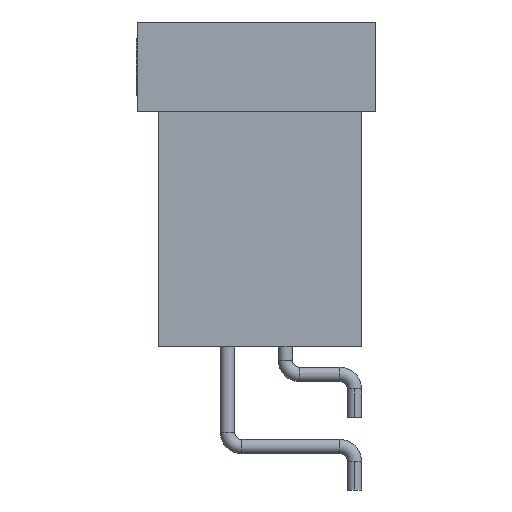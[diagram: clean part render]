
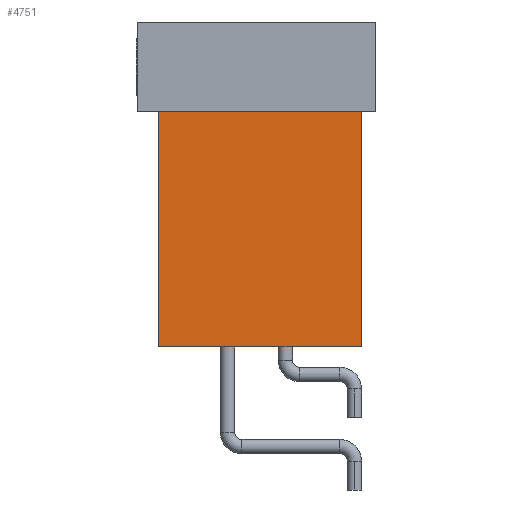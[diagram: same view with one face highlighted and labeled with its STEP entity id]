
A CAD part, left-side view. The second image highlights one B-rep face of the part: STEP entity #4751.
In plain terms, the highlighted planar face has unit normal (-1, 0, 0).
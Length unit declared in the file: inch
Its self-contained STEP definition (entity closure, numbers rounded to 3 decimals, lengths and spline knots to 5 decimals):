
#1491 = DIRECTION ( 'NONE',  ( 0., -1., 0. ) ) ;
#1956 = AXIS2_PLACEMENT_3D ( 'NONE', #17750, #22944, #7614 ) ;
#3034 = EDGE_LOOP ( 'NONE', ( #27203, #5277, #25218, #3708 ) ) ;
#3194 = VECTOR ( 'NONE', #1491, 39.37008 ) ;
#3708 = ORIENTED_EDGE ( 'NONE', *, *, #4571, .T. ) ;
#4571 = EDGE_CURVE ( 'NONE', #23767, #23528, #5003, .T. ) ;
#4751 = ADVANCED_FACE ( 'NONE', ( #27385 ), #20338, .T. ) ;
#5003 = LINE ( 'NONE', #21237, #16988 ) ;
#5277 = ORIENTED_EDGE ( 'NONE', *, *, #9298, .F. ) ;
#5829 = DIRECTION ( 'NONE',  ( 0., 0., 1. ) ) ;
#6264 = EDGE_CURVE ( 'NONE', #17456, #23528, #23647, .T. ) ;
#7053 = LINE ( 'NONE', #19155, #26634 ) ;
#7614 = DIRECTION ( 'NONE',  ( 0., 0., 1. ) ) ;
#9298 = EDGE_CURVE ( 'NONE', #25954, #17456, #7053, .T. ) ;
#9747 = DIRECTION ( 'NONE',  ( 0., -1., 0. ) ) ;
#10175 = LINE ( 'NONE', #29837, #10975 ) ;
#10975 = VECTOR ( 'NONE', #9747, 39.37008 ) ;
#13613 = CARTESIAN_POINT ( 'NONE',  ( -0.225, -0.0725, -0.225 ) ) ;
#16988 = VECTOR ( 'NONE', #5829, 39.37008 ) ;
#17456 = VERTEX_POINT ( 'NONE', #28252 ) ;
#17750 = CARTESIAN_POINT ( 'NONE',  ( -0.225, 0.0675, -0.225 ) ) ;
#18107 = CARTESIAN_POINT ( 'NONE',  ( -0.225, 0.0675, -0.225 ) ) ;
#19155 = CARTESIAN_POINT ( 'NONE',  ( -0.225, 0.0675, -0.225 ) ) ;
#20242 = CARTESIAN_POINT ( 'NONE',  ( -0.225, -0.0725, -0.062 ) ) ;
#20338 = PLANE ( 'NONE',  #1956 ) ;
#21237 = CARTESIAN_POINT ( 'NONE',  ( -0.225, -0.0725, -0.225 ) ) ;
#21742 = DIRECTION ( 'NONE',  ( 0., 0., 1. ) ) ;
#22944 = DIRECTION ( 'NONE',  ( -1., 0., 0. ) ) ;
#23528 = VERTEX_POINT ( 'NONE', #20242 ) ;
#23647 = LINE ( 'NONE', #29976, #3194 ) ;
#23767 = VERTEX_POINT ( 'NONE', #13613 ) ;
#25218 = ORIENTED_EDGE ( 'NONE', *, *, #25736, .T. ) ;
#25736 = EDGE_CURVE ( 'NONE', #25954, #23767, #10175, .T. ) ;
#25954 = VERTEX_POINT ( 'NONE', #18107 ) ;
#26634 = VECTOR ( 'NONE', #21742, 39.37008 ) ;
#27203 = ORIENTED_EDGE ( 'NONE', *, *, #6264, .F. ) ;
#27385 = FACE_OUTER_BOUND ( 'NONE', #3034, .T. ) ;
#28252 = CARTESIAN_POINT ( 'NONE',  ( -0.225, 0.0675, -0.062 ) ) ;
#29837 = CARTESIAN_POINT ( 'NONE',  ( -0.225, 0.0675, -0.225 ) ) ;
#29976 = CARTESIAN_POINT ( 'NONE',  ( -0.225, 0.0675, -0.062 ) ) ;
